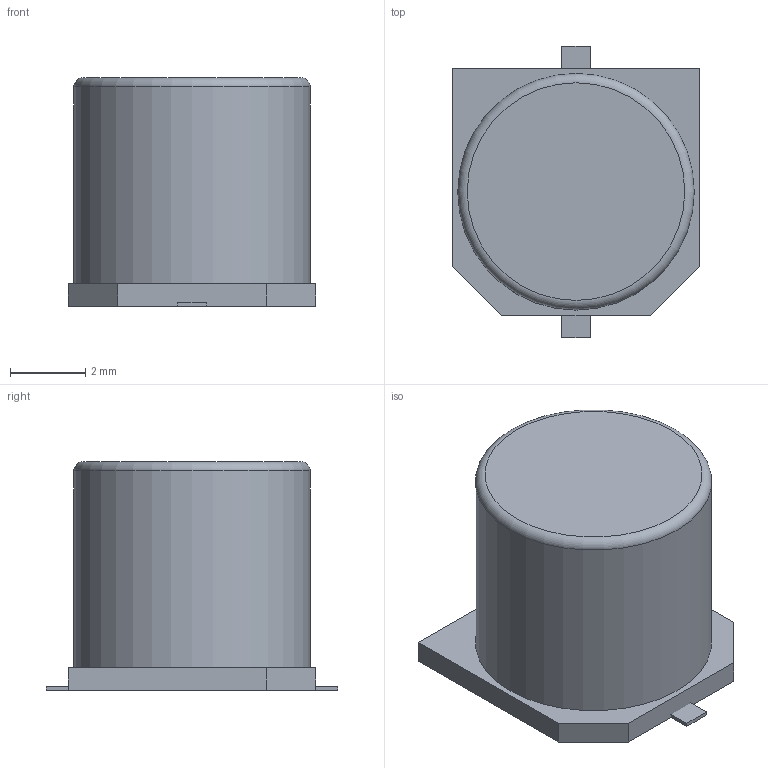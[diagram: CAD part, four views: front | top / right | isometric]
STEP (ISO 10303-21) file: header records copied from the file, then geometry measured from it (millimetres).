
FILE_DESCRIPTION(('FreeCAD Model'),'2;1');
FILE_NAME('Open CASCADE Shape Model','2025-01-29T21:21:13',( 'Krisjanis Rijnieks'),(''),'Open CASCADE STEP processor 7.7', 'FreeCAD','Unknown');
FILE_SCHEMA(('AUTOMOTIVE_DESIGN { 1 0 10303 214 1 1 1 1 }'));
Length unit declared in the file: millimetre
Products named in the file (5): EEE-FN1E101UL; ContactClone; Contact; Cylinder; Base
Assembly tree (4 placements, depth 2):
  EEE-FN1E101UL
    ContactClone
    Contact
    Cylinder
    Base
Bounding box: 6.6 x 7.78 x 6.1 mm (x, y, z)
Volume: 196.8 mm3; surface area: 276.4 mm2
Topology: 4 solids, 4 shells, 24 faces, 47 edges, 31 vertices
Faces by surface type: plane 22, cylinder 1, torus 1
Full cylindrical faces by diameter (mm): 6.3 x1
Entity records: 726 total; most frequent: DIRECTION 109, CARTESIAN_POINT 107, ORIENTED_EDGE 94, EDGE_CURVE 47, LINE 43, VECTOR 43, AXIS2_PLACEMENT_3D 33, VERTEX_POINT 31
